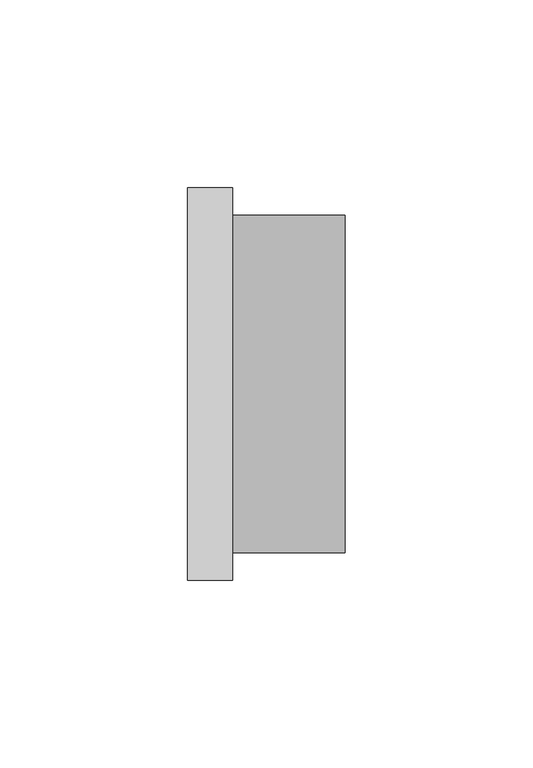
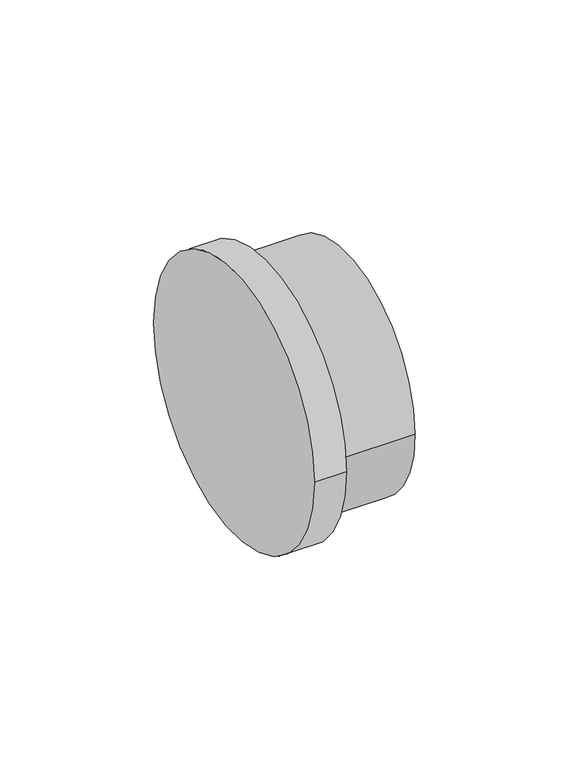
"""IFC4 building model written with IfcOpenShell, lengths in millimetres: pipe fitting geometry, NIRON RED termofusion casquillo : Estándar."""

from ifc_helpers import new_model, si_unit, point, frame, origin, origin_2d, place, context, project, spatial, circle_curve, trimmed, segment, composite_curve, outline, extrude, source, transform, mapped, element, save


def pipe_fitting_2a303343(model_context):
    return source(origin(), model_context, "Body", "SweptSolid", [
        extrude(outline(composite_curve([segment(trimmed(circle_curve(origin_2d(), 45.0), [point((45.0, 0.0))], [point((-45.0, 0.0))], False, "CARTESIAN"), True, "CONTINUOUS"), segment(trimmed(circle_curve(origin_2d(), 45.0), [point((-45.0, 0.0))], [point((45.0, 0.0))], False, "CARTESIAN"), True, "CONTINUOUS")], self_intersect=False)), frame((12.0, 0.0, 0.0), z_axis=(1.0, 0.0, 0.0), x_axis=(0.0, 1.0, 0.0)), (0.0, 0.0, 1.0), 30.0),
        extrude(outline(composite_curve([segment(trimmed(circle_curve(origin_2d(), 52.25), [point((-52.25, 0.0))], [point((52.25, 0.0))], False, "CARTESIAN"), True, "CONTINUOUS"), segment(trimmed(circle_curve(origin_2d(), 52.25), [point((52.25, 0.0))], [point((-52.25, 0.0))], False, "CARTESIAN"), True, "CONTINUOUS")], self_intersect=False)), frame((0.0, 0.0, 0.0), z_axis=(1.0, 0.0, 0.0), x_axis=(0.0, 1.0, 0.0)), (0.0, 0.0, 1.0), 12.0),
    ])


if __name__ == "__main__":
    model = new_model("IFC4")
    model_context = context("Model", 3, world=origin())
    ifc_project = project(units=[si_unit("LENGTHUNIT", "METRE", prefix="MILLI")], contexts=[model_context])
    site = spatial("IfcSite", under=ifc_project)
    building = spatial("IfcBuilding", under=site)
    placement = place(None, origin())
    pipe_fitting_shape = pipe_fitting_2a303343(model_context)
    element("IfcPipeFitting", 1, ObjectType="NIRON RED termofusion casquillo : Estándar", at=placement, inside=building, context=model_context, shape_type="MappedRepresentation", body=[
        mapped(pipe_fitting_shape, transform((0.0, 0.0, 0.0), x_axis=(1.0, 0.0, 0.0), y_axis=(0.0, 1.0, 0.0), z_axis=(0.0, 0.0, 1.0))),
    ])
    save(model, "model.ifc")
